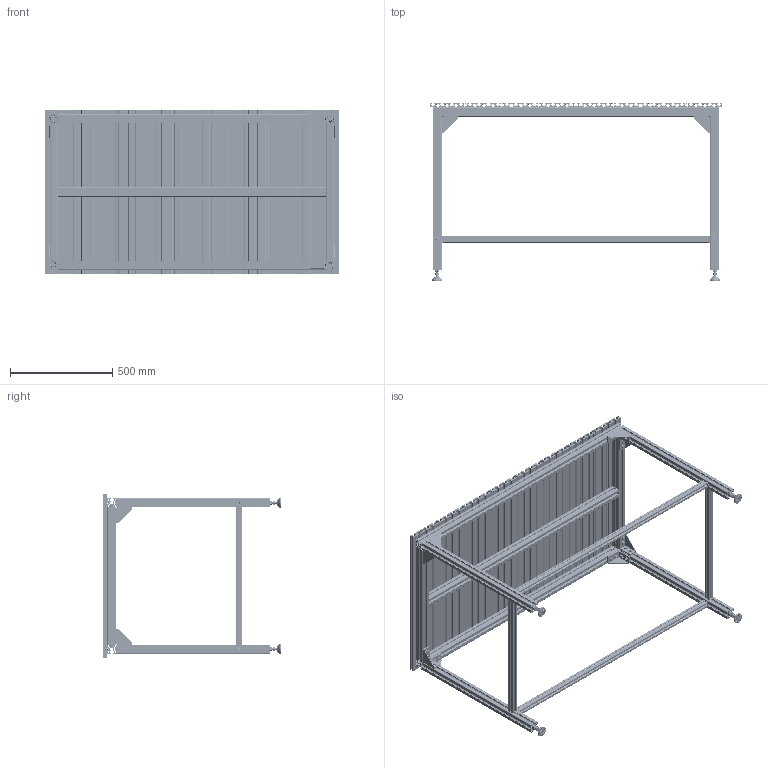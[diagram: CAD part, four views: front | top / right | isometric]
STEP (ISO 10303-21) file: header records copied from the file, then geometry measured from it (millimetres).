
FILE_DESCRIPTION (( 'STEP AP214' ), '1' );
FILE_NAME ('Sborka.STEP', '2023-05-24T08:48:43', ( '' ), ( '' ), 'SwSTEP 2.0', 'SolidWorks 2022', '' );
FILE_SCHEMA (( 'AUTOMOTIVE_DESIGN' ));
Length unit declared in the file: millimetre
Products named in the file (25): Гайка без дырки М12; 1012_sborka; 5108_new_Упрощенный; 3030_usilenie_glubina; Sborka; 4545_shirina; 4545_glubiba; socket button head screw_iso_ISO 7380 - M8 x 20 - 20N; 22.5180; Прокладка от скольжения под 50мм; 2033; 7040; 1012; 4545_noga; M8DIN6923; socket countersunk head screw_din_DIN 7991 - M4 x 16 --- 11.6N; 5081; 5030_5026 упрощенная; 5083; Подошва поворотная 50мм; 2033_with_5081; 3030_usilenie_shirina; 5186 (М4-45); 4545_seredina; Шпилька М12 100мм
Assembly tree (167 placements, depth 3):
  Sborka
    22.5180  x8
    socket countersunk head screw_din_DIN 7991 - M4 x 16 --- 11.6N  x48
    5186 (М4-45)  x48
    4545_glubiba  x2
    4545_shirina  x2
    4545_seredina
    5108_new_Упрощенный  x2
    2033_with_5081  x4
      2033
      5081
    4545_noga  x4
    7040  x4
      Подошва поворотная 50мм
      Шпилька М12 100мм
      Гайка без дырки М12
      Прокладка от скольжения под 50мм
    1012_sborka  x8
      M8DIN6923
      1012
      5030_5026 упрощенная
    3030_usilenie_glubina  x2
    5083  x8
    socket button head screw_iso_ISO 7380 - M8 x 20 - 20N  x8
    3030_usilenie_shirina  x2
Bounding box: 1440 x 872.72 x 800 mm (x, y, z)
Volume: 21517048.8 mm3; surface area: 11887859.6 mm2
Topology: 237 solids, 237 shells, 14019 faces, 38979 edges, 25174 vertices
Faces by surface type: plane 7642, cylinder 4597, cone 820, sphere 496, torus 432, bspline 32
Entity records: 90582 total; most frequent: CARTESIAN_POINT 17406, DIRECTION 15175, ORIENTED_EDGE 15170, EDGE_CURVE 7585, AXIS2_PLACEMENT_3D 5103, VERTEX_POINT 5006, VECTOR 4969, LINE 4969
